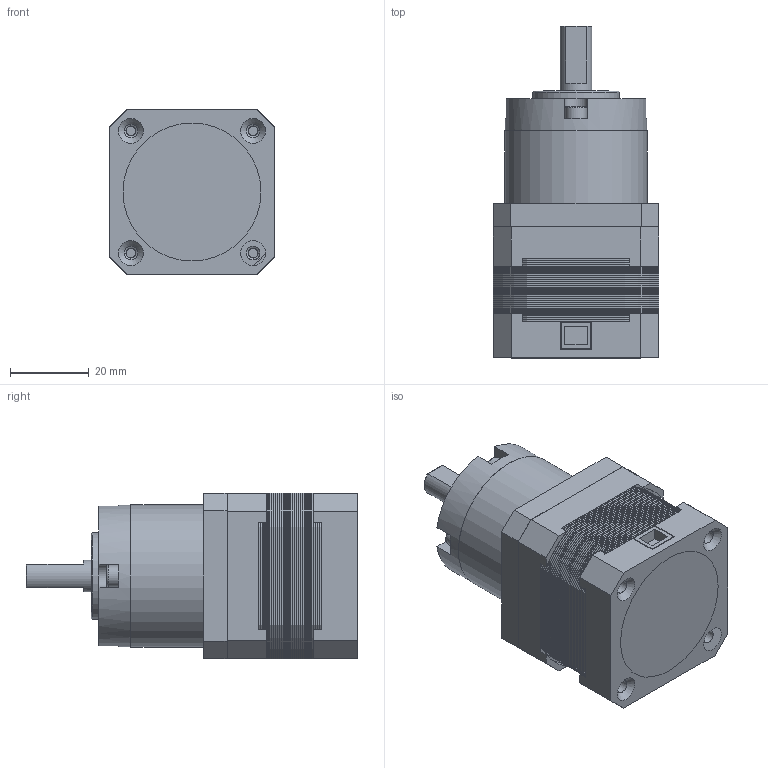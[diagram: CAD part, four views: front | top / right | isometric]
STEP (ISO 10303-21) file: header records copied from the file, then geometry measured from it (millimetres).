
FILE_DESCRIPTION(/* description */ (''),/* implementation_level */ '2;1');
FILE_NAME(/* name */ 'Assieme_RIDUTTORE.stp',/* time_stamp */ '2025-06-01T19:43:57+02:00',/* author */ ('R5800u'),/* organization */ (''),/* preprocessor_version */ 'ST-DEVELOPER v20',/* originating_system */ 'Autodesk Inventor 2025',/* authorisation */ '');
FILE_SCHEMA (('AUTOMOTIVE_DESIGN { 1 0 10303 214 3 1 1 }'));
Length unit declared in the file: millimetre
Products named in the file (5): Assieme1; High Torque Planetary Gear Reducer; Part4; NEMA 17HS13-0404S1; AS 1420 - 1973 - M3 x 8
Assembly tree (11 placements, depth 3):
  Assieme1
    High Torque Planetary Gear Reducer
      Part4
    NEMA 17HS13-0404S1
    AS 1420 - 1973 - M3 x 8  x8
Bounding box: 42 x 84.2 x 42 mm (x, y, z)
Volume: 66898 mm3; surface area: 125501.4 mm2
Topology: 43 solids, 43 shells, 1490 faces, 3493 edges, 2116 vertices
Faces by surface type: plane 633, cone 515, cylinder 324, torus 18
Full cylindrical faces by diameter (mm): 2.5 x4, 2.529 x8, 3 x8, 3.4 x132, 4.529 x1, 5 x2, 5.1 x4, 5.5 x8, 6 x5, 6.5 x1, 8 x1, 20 x1, 22 x3, 31.5 x1, 34 x2, 34.2 x1, 36 x1, 36.2 x1
Entity records: 40175 total; most frequent: DIRECTION 7346, CARTESIAN_POINT 6619, ORIENTED_EDGE 6480, EDGE_CURVE 3240, AXIS2_PLACEMENT_3D 2718, VERTEX_POINT 1948, LINE 1910, VECTOR 1910
